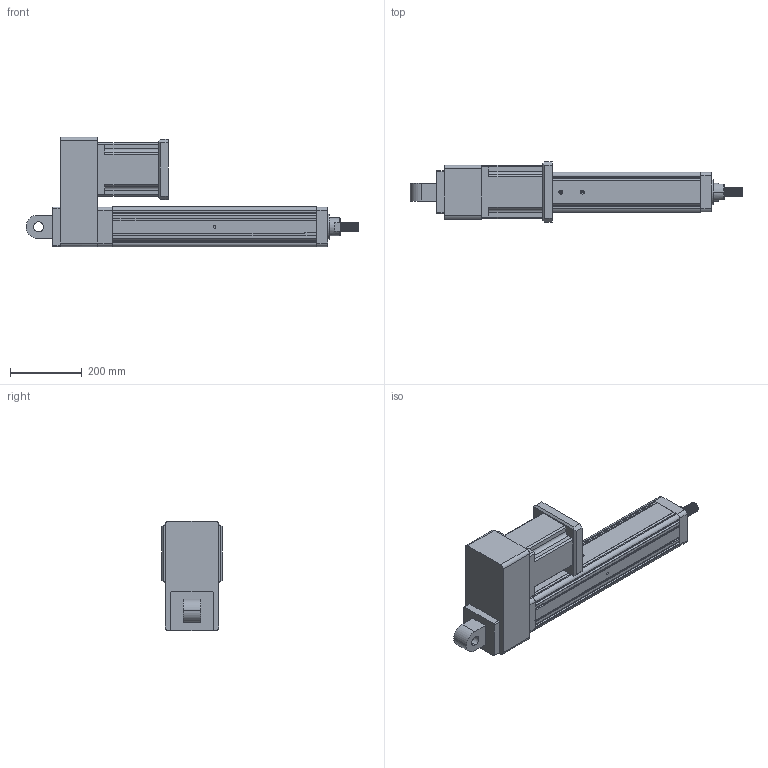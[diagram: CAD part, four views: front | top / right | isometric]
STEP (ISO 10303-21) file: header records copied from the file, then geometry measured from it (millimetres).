
FILE_DESCRIPTION (( 'STEP AP203' ), '1' );
FILE_NAME ('YRJ110-L400-H6K1.STEP', '2020-01-04T07:08:18', ( 'User' ), ( 'China' ), 'SwSTEP 2.0', 'SolidWorks 2016', '' );
FILE_SCHEMA (( 'CONFIG_CONTROL_DESIGN' ));
Length unit declared in the file: millimetre
Products named in the file (8): 萇儂碟-110; 142熬厒儂; H5-110-1; H6-110; H3-110-2; K1-110; YRJ110-L400-H6K1; 095-100俴最倰第
Assembly tree (7 placements, depth 2):
  YRJ110-L400-H6K1
    095-100俴最倰第
    萇儂碟-110
    142熬厒儂
    H5-110-1
    H6-110
    H3-110-2
    K1-110
Bounding box: 926 x 168 x 305.5 mm (x, y, z)
Volume: 12598104.1 mm3; surface area: 1035776 mm2
Topology: 7 solids, 7 shells, 369 faces, 1016 edges, 658 vertices
Faces by surface type: plane 180, cylinder 158, cone 27, bspline 4
Entity records: 20486 total; most frequent: CARTESIAN_POINT 10386, ORIENTED_EDGE 2000, DIRECTION 1860, EDGE_CURVE 1000, VERTEX_POINT 658, LINE 636, VECTOR 636, AXIS2_PLACEMENT_3D 612
